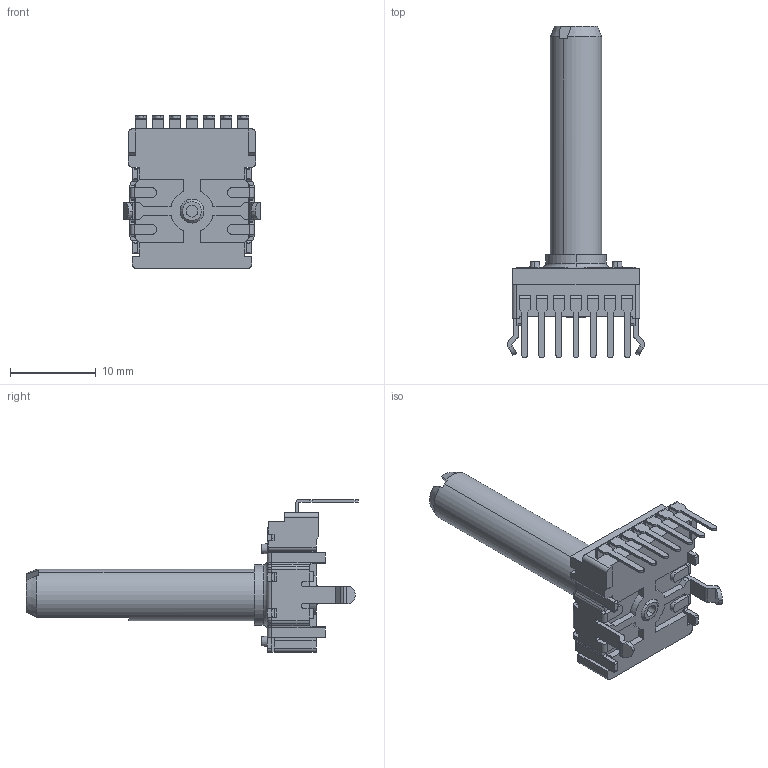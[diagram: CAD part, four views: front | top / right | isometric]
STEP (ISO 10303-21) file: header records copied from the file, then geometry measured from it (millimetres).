
FILE_DESCRIPTION (( 'STEP AP203' ), '1' );
FILE_NAME ('P140KH-F35.STEP', '2026-09-15T19:16:19', ( '' ), ( '' ), 'SwSTEP 2.0', 'SolidWorks 2026', '' );
FILE_SCHEMA (( 'CONFIG_CONTROL_DESIGN' ));
Length unit declared in the file: millimetre
Products named in the file (7): spring_plate; KH bracket; KH-housing; F35; V-terminal; P140KH-F35; Housing
Assembly tree (12 placements, depth 3):
  P140KH-F35
    KH-housing
      Housing
      V-terminal  x7
    F35
    spring_plate
    KH bracket
Bounding box: 16.1 x 38.8 x 17.85 mm (x, y, z)
Volume: 1706.8 mm3; surface area: 2920.4 mm2
Topology: 11 solids, 11 shells, 595 faces, 1632 edges, 1052 vertices
Faces by surface type: plane 376, cylinder 189, bspline 12, cone 8, torus 6, sphere 4
Entity records: 17299 total; most frequent: CARTESIAN_POINT 3227, ORIENTED_EDGE 2816, DIRECTION 2696, EDGE_CURVE 1408, LINE 998, VECTOR 998, VERTEX_POINT 908, AXIS2_PLACEMENT_3D 849
